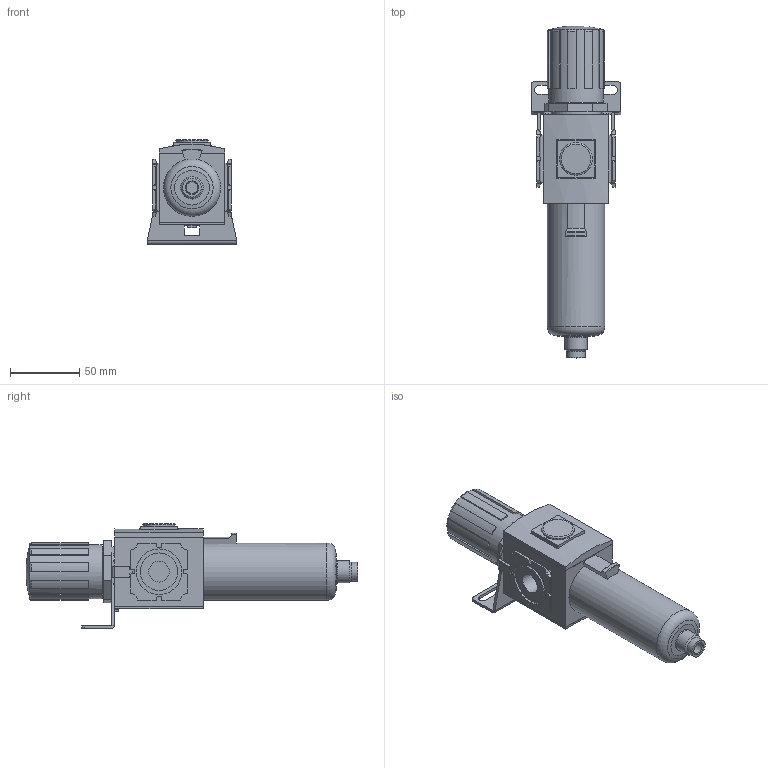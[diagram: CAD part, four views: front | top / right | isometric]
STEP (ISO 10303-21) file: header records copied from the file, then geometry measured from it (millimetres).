
FILE_DESCRIPTION( ( 'STEP AP214' ), '1' );
FILE_NAME( 'C:/Users/emc03072/Desktop/EAW/EAW3000-03CF2.stp', '2026-08-14T16:22:08', ( 'License CC BY-ND 4.0' ), ( 'CADENAS' ), ' ', 'PARTsolutions', ' ' );
FILE_SCHEMA( ( 'AUTOMOTIVE_DESIGN { 1 0 10303 214 1 1 1 1 }' ) );
Length unit declared in the file: millimetre
Products named in the file (2): EAW3000-03CF2; _EAW3000-03CF2-body
Assembly tree (1 placements, depth 2):
  EAW3000-03CF2
    _EAW3000-03CF2-body
Bounding box: 65 x 239.84 x 75.8 mm (x, y, z)
Volume: 401437.7 mm3; surface area: 53004.2 mm2
Topology: 1 solids, 2 shells, 322 faces, 886 edges, 586 vertices
Faces by surface type: plane 235, cylinder 65, torus 16, cone 5, sphere 1
Full cylindrical faces by diameter (mm): 8.566 x1, 13.5 x1, 14.95 x2, 16 x1, 16.38 x1, 23.5 x1, 27.06 x2, 32.94 x2, 36 x2, 39.26 x1, 41.322 x1
Entity records: 12720 total; most frequent: CARTESIAN_POINT 1781, DIRECTION 1728, ORIENTED_EDGE 1720, EDGE_CURVE 860, LINE 632, VECTOR 632, VERTEX_POINT 585, AXIS2_PLACEMENT_3D 548
